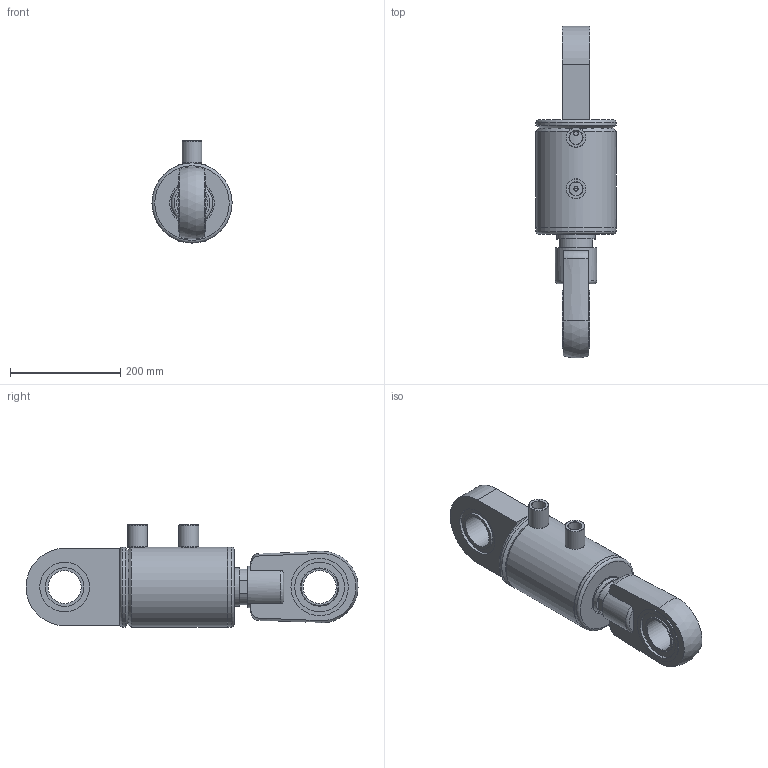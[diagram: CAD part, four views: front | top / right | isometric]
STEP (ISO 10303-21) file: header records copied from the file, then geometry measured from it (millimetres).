
FILE_DESCRIPTION(/* description */ (''),/* implementation_level */ '2;1');
FILE_NAME(/* name */ 'HC_A_125_70_50_AMB_WEB.step',/* time_stamp */ '2023-07-31T17:39:32+03:00',/* author */ (''),/* organization */ (''),/* preprocessor_version */ 'ST-DEVELOPER v20',/* originating_system */ 'Autodesk Translation Framework v12.9.0.99',/* authorisation */ '');
FILE_SCHEMA (('AUTOMOTIVE_DESIGN { 1 0 10303 214 3 1 1 }'));
Length unit declared in the file: millimetre
Products named in the file (17): TRACE_PARTS_125_70_100STROKE; TAK_125_145; Bileşen1; 125_145_HON_BORU; Bileşen1_1; TDK_125_70_M130X2; Bileşen1_2; K0_115X5; K33-070; K06-070; 70_HONLU_MİL; Bileşen1_3; RMV_60; dgihl_60_do; RMK_60; RMK_60_1; Manşon3_4
Assembly tree (17 placements, depth 3):
  TRACE_PARTS_125_70_100STROKE
    TAK_125_145
      Bileşen1
    125_145_HON_BORU
      Bileşen1_1
    TDK_125_70_M130X2
      Bileşen1_2
      K0_115X5
      K33-070
      K06-070
    70_HONLU_MİL
      Bileşen1_3
    RMV_60
      dgihl_60_do
    RMK_60
      RMK_60_1
    Manşon3_4  x2
Bounding box: 145 x 601.33 x 185 mm (x, y, z)
Volume: 4356033.6 mm3; surface area: 548814.2 mm2
Topology: 11 solids, 11 shells, 612 faces, 1565 edges, 1030 vertices
Faces by surface type: bspline 282, plane 205, cylinder 58, cone 48, torus 16, sphere 3
Full cylindrical faces by diameter (mm): 8 x2, 24.5 x2, 35 x1, 36 x2, 49.822 x1, 56.376 x1, 57.85 x1, 60 x3, 70 x5, 70.948 x2, 71.107 x1, 73.2 x1, 75 x1, 79.408 x1, 80 x1, 80.58 x1, 80.6 x1, 90 x4, 104 x2, 117 x1, 125 x2, 126 x3, 127.5 x1, 128.023 x1, 129.822 x1, 145 x3
Entity records: 28059 total; most frequent: CARTESIAN_POINT 14650, ORIENTED_EDGE 3096, DIRECTION 1936, EDGE_CURVE 1548, VERTEX_POINT 1020, LINE 690, VECTOR 690, EDGE_LOOP 680
